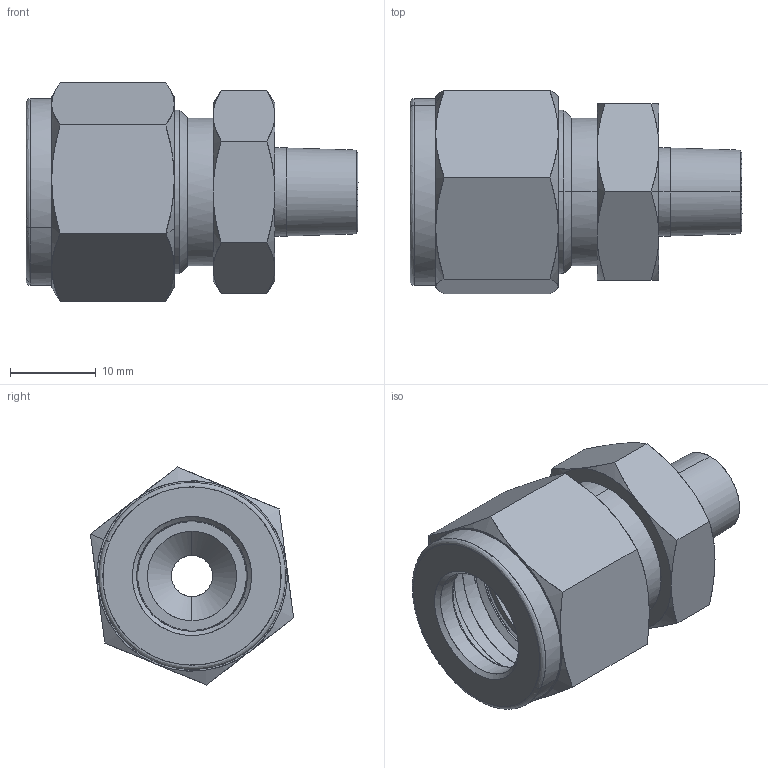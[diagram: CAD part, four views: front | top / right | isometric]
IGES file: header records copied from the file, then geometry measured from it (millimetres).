
Start section: Comment
Global section: file name: SMC8-2N.igs; native system:  By UGS Corp.; preprocessor: XPlus GENERIC/IGES 3.0; author: Author; organization: Title; date: 20100113.145129; units: millimetre
Bounding box: 38.74 x 23.72 x 25.44 mm (x, y, z)
Surface area: 5917.4 mm2 (no closed solid volume)
Topology: 0 solids, 0 shells, 116 faces, 675 edges, 672 vertices
Faces by surface type: bspline 116
